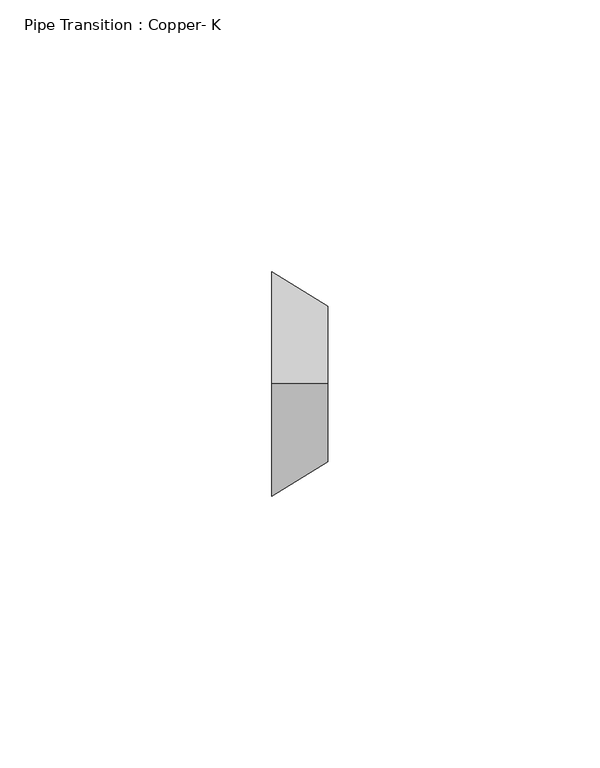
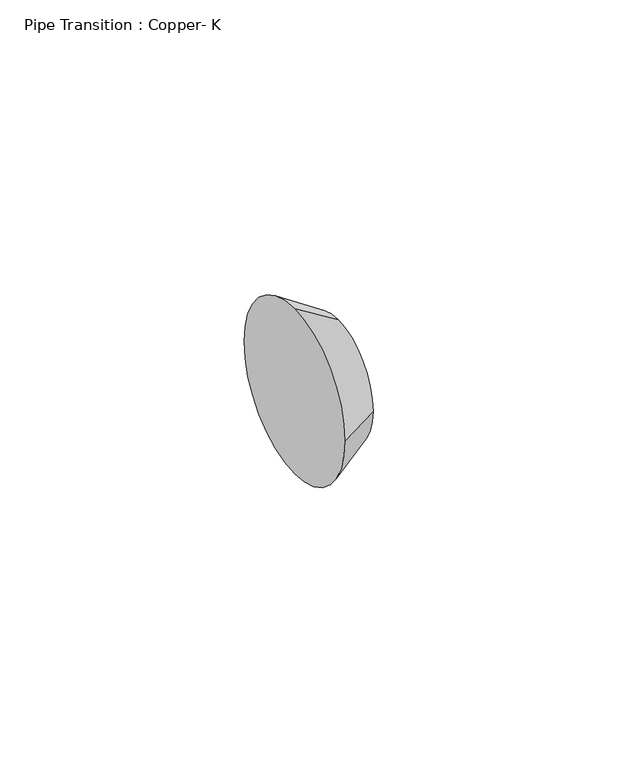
"""IFC4 building model written with IfcOpenShell, lengths in millimetres: pipe fitting geometry, Pipe Transition : Copper- K."""

from ifc_helpers import new_model, si_unit, frame, origin, place, context, project, spatial, polyline, circle_curve, source, transform, mapped, element, save
from ifc_brep_helpers import plane_surface, revolved_surface, advanced_brep


def pipe_transition_copper_k_5615079d(model_context):
    return source(origin(), model_context, "Body", "AdvancedBrep", [
        advanced_brep(
        [(10.31875, 0.0, 14.2875), (10.31875, -14.2875, 0.0), (10.31875, 0.0, -14.2875), (10.31875, 14.2875, 0.0), (0.0, 0.0, 20.6375), (0.0, 20.6375, 0.0), (0.0, 0.0, -20.6375), (0.0, -20.6375, 0.0)],
        [
            (0, 1, circle_curve(frame((10.31875, 0.0, 0.0), z_axis=(1.0, 0.0, 0.0), x_axis=(0.0, 0.0, 1.0)), 14.2875)),
            (1, 2, circle_curve(frame((10.31875, 0.0, 0.0), z_axis=(1.0, 0.0, 0.0), x_axis=(0.0, -1.0, 0.0)), 14.2875)),
            (2, 3, circle_curve(frame((10.31875, 0.0, 0.0), z_axis=(1.0, 0.0, 0.0), x_axis=(0.0, 0.0, -1.0)), 14.2875)),
            (3, 0, circle_curve(frame((10.31875, 0.0, 0.0), z_axis=(1.0, 0.0, 0.0), x_axis=(0.0, 1.0, 0.0)), 14.2875)),
            (4, 5, circle_curve(frame((0.0, 0.0, 0.0), z_axis=(-1.0, 0.0, 0.0), x_axis=(0.0, 1.0, 0.0)), 20.6375)),
            (5, 6, circle_curve(frame((0.0, 0.0, 0.0), z_axis=(-1.0, 0.0, 0.0), x_axis=(0.0, 0.0, -1.0)), 20.6375)),
            (6, 7, circle_curve(frame((0.0, 0.0, 0.0), z_axis=(-1.0, 0.0, 0.0), x_axis=(0.0, -1.0, 0.0)), 20.6375)),
            (7, 4, circle_curve(frame((0.0, 0.0, 0.0), z_axis=(-1.0, 0.0, 0.0), x_axis=(0.0, 0.0, 1.0)), 20.6375)),
            (7, 1),
            (0, 4),
            (6, 2),
            (5, 3),
        ],
        [
            plane_surface(frame((10.31875, 0.0, 0.0), z_axis=(1.0, 0.0, 0.0), x_axis=(0.0, -1.0, 0.0))),
            plane_surface(frame((0.0, 0.0, 0.0), z_axis=(-1.0, 0.0, 0.0), x_axis=(0.0, -1.0, 0.0))),
            revolved_surface(polyline([(10.318750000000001, 0.0, 14.2875), (0.0, 0.0, 20.6375)]), (33.5359375, 0.0, 0.0), (-1.0, 0.0, 0.0)),
            revolved_surface(polyline([(10.318750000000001, -14.2875, 0.0), (0.0, -20.6375, 0.0)]), (33.5359375, 0.0, 0.0), (-1.0, 0.0, 0.0)),
            revolved_surface(polyline([(10.318750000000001, 0.0, -14.2875), (0.0, 0.0, -20.6375)]), (33.5359375, 0.0, 0.0), (-1.0, 0.0, 0.0)),
            revolved_surface(polyline([(10.318750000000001, 14.2875, 0.0), (0.0, 20.6375, 0.0)]), (33.5359375, 0.0, 0.0), (-1.0, 0.0, 0.0)),
        ],
        [
            (0, [[1, 2, 3, 4]]),
            (1, [[5, 6, 7, 8]]),
            (2, [[-8, 9, -1, 10]]),
            (3, [[-7, 11, -2, -9]]),
            (4, [[-6, 12, -3, -11]]),
            (5, [[-5, -10, -4, -12]]),
        ],
    ),
        advanced_brep(
        [(10.31875, 0.0, 14.2875), (10.31875, -14.2875, 0.0), (10.31875, 0.0, -14.2875), (10.31875, 14.2875, 0.0), (0.0, 0.0, 20.6375), (0.0, 20.6375, 0.0), (0.0, 0.0, -20.6375), (0.0, -20.6375, 0.0)],
        [
            (0, 1, circle_curve(frame((10.31875, 0.0, 0.0), z_axis=(1.0, 0.0, 0.0), x_axis=(0.0, 0.0, 1.0)), 14.2875)),
            (1, 2, circle_curve(frame((10.31875, 0.0, 0.0), z_axis=(1.0, 0.0, 0.0), x_axis=(0.0, -1.0, 0.0)), 14.2875)),
            (2, 3, circle_curve(frame((10.31875, 0.0, 0.0), z_axis=(1.0, 0.0, -1.2689316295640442e-12), x_axis=(-1.2688930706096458e-12, 0.0, -1.0)), 14.2875)),
            (3, 0, circle_curve(frame((10.31875, 0.0, 0.0), z_axis=(1.0, 0.0, 0.0), x_axis=(0.0, 1.0, 0.0)), 14.2875)),
            (4, 5, circle_curve(frame((0.0, 0.0, 0.0), z_axis=(-1.0, 0.0, 0.0), x_axis=(0.0, 1.0, 0.0)), 20.6375)),
            (5, 6, circle_curve(frame((0.0, 0.0, 0.0), z_axis=(-1.0, 0.0, 1.2689316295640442e-12), x_axis=(-1.2688930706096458e-12, 0.0, -1.0)), 20.6375)),
            (6, 7, circle_curve(frame((0.0, 0.0, 0.0), z_axis=(-1.0, 0.0, 0.0), x_axis=(0.0, -1.0, 0.0)), 20.6375)),
            (7, 4, circle_curve(frame((0.0, 0.0, 0.0), z_axis=(-1.0, 0.0, 0.0), x_axis=(0.0, 0.0, 1.0)), 20.6375)),
            (7, 1),
            (0, 4),
            (6, 2),
            (5, 3),
        ],
        [
            plane_surface(frame((10.31875, 0.0, 0.0), z_axis=(1.0, 0.0, 0.0), x_axis=(0.0, -1.0, 0.0))),
            plane_surface(frame((0.0, 0.0, 0.0), z_axis=(-1.0, 0.0, 0.0), x_axis=(0.0, -1.0, 0.0))),
            revolved_surface(polyline([(10.318750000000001, 0.0, 14.2875), (0.0, 0.0, 20.6375)]), (33.5359375, 0.0, 0.0), (-1.0, 0.0, 0.0)),
            revolved_surface(polyline([(10.318750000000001, -14.2875, 0.0), (0.0, -20.6375, 0.0)]), (33.5359375, 0.0, 0.0), (-1.0, 0.0, 0.0)),
            revolved_surface(polyline([(10.318749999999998, 0.0, -14.287500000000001), (-2.6190605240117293e-11, 0.0, -20.637500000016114)]), (33.5359375, 0.0, 0.0), (-1.0, 0.0, 1.2689316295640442e-12)),
            revolved_surface(polyline([(10.318750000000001, 14.2875, 0.0), (0.0, 20.6375, 0.0)]), (33.5359375, 0.0, 0.0), (-1.0, 0.0, 0.0)),
        ],
        [
            (0, [[1, 2, 3, 4]]),
            (1, [[5, 6, 7, 8]]),
            (2, [[-8, 9, -1, 10]]),
            (3, [[-7, 11, -2, -9]]),
            (4, [[-6, 12, -3, -11]]),
            (5, [[-5, -10, -4, -12]]),
        ],
    ),
    ])


if __name__ == "__main__":
    model = new_model("IFC4")
    model_context = context("Model", 3, world=origin())
    ifc_project = project(units=[si_unit("LENGTHUNIT", "METRE", prefix="MILLI")], contexts=[model_context])
    site = spatial("IfcSite", under=ifc_project)
    building = spatial("IfcBuilding", under=site)
    placement = place(None, origin())
    pipe_transition_copper_k_shape = pipe_transition_copper_k_5615079d(model_context)
    element("IfcPipeFitting", 1, ObjectType="Pipe Transition : Copper- K", at=placement, inside=building, context=model_context, shape_type="MappedRepresentation", body=[
        mapped(pipe_transition_copper_k_shape, transform((0.0, 0.0, 0.0), x_axis=(1.0, 0.0, 0.0), y_axis=(0.0, 1.0, 0.0), z_axis=(0.0, 0.0, 1.0))),
    ])
    save(model, "model.ifc")
